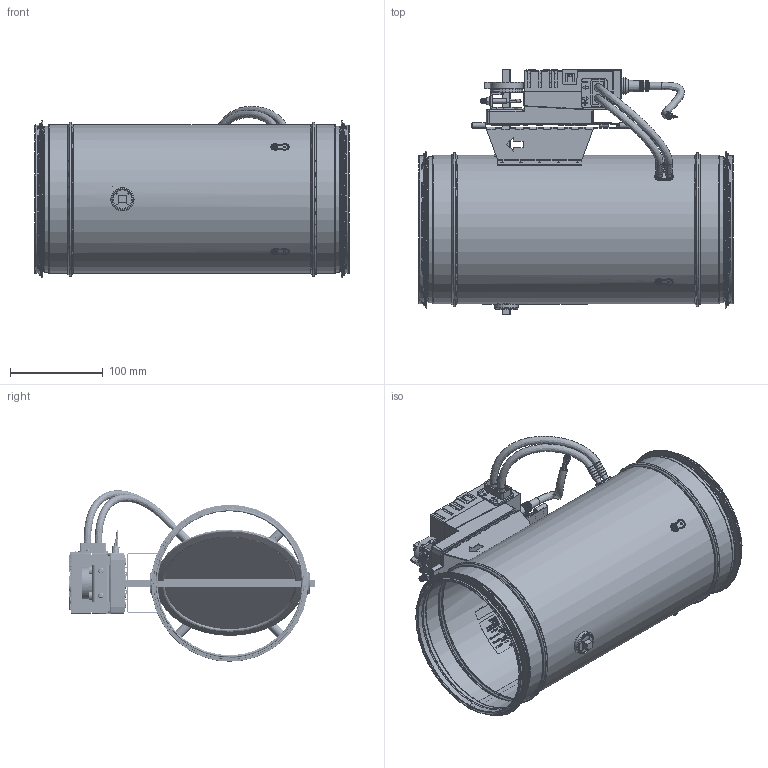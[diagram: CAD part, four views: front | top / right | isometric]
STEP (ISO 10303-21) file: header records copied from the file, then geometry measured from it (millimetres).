
FILE_DESCRIPTION (( 'STEP AP214' ), '1' );
FILE_NAME ('VAV-R160.STEP', '2025-03-10T13:38:56', ( '' ), ( '' ), 'SwSTEP 2.0', 'SolidWorks 2025', '' );
FILE_SCHEMA (( 'AUTOMOTIVE_DESIGN' ));
Length unit declared in the file: millimetre
Products named in the file (19): CROSS_PLUG; Teil3^VAV-R160; Sicherungsscheibexxx_x_x; BLECHSCHRAUBE; LDE_DN160; DB_DN160; CROSS_WING160; CROSS_DN160; Dichtung_Vierkantxxx_x_x; Abschlusskappexxx_x_x; KLAPPE160; LMV-D3-MP; VAV-R160; Label VAVR160; CROSS_PIECE; Dichtungen; Dichtung_innenxxx_x_x; VSRV_Zapfen; BELIMO_MOTOR BRACKET_DN150-200
Assembly tree (27 placements, depth 3):
  VAV-R160
    DB_DN160
    BELIMO_MOTOR BRACKET_DN150-200
    CROSS_DN160
      CROSS_PIECE
      CROSS_WING160  x4
      CROSS_PLUG  x3
      VSRV_Zapfen
    LDE_DN160  x2
    BLECHSCHRAUBE  x3
    LMV-D3-MP
    Dichtungen  x2
      Abschlusskappexxx_x_x
      Dichtung_innenxxx_x_x
      Dichtung_Vierkantxxx_x_x
      Sicherungsscheibexxx_x_x
    KLAPPE160
    Label VAVR160
    Teil3^VAV-R160
Bounding box: 340.34 x 265.29 x 185.36 mm (x, y, z)
Volume: 220187.1 mm3; surface area: 639202.1 mm2
Topology: 30 solids, 48 shells, 6664 faces, 17990 edges, 11804 vertices
Faces by surface type: plane 2925, bspline 2466, cylinder 1019, torus 133, cone 91, sphere 30
Full cylindrical faces by diameter (mm): 1 x4, 1.911 x6, 2 x17, 2.5 x6, 3.5 x3, 4 x2, 5 x2, 5.5 x3, 6 x27, 7.5 x2, 8 x25, 11 x1, 16 x2, 20 x2, 21 x2, 21.422 x2, 23.5 x2, 25 x2, 155.845 x2, 156.74 x2, 157.4 x2, 159.14 x4, 160 x3, 169.74 x2
Entity records: 353124 total; most frequent: CARTESIAN_POINT 159306, ORIENTED_EDGE 33839, EDGE_CURVE 16941, DIRECTION 15541, VERTEX_POINT 11241, B_SPLINE_CURVE_WITH_KNOTS 11091, EDGE_LOOP 7069, FACE_OUTER_BOUND 6464
